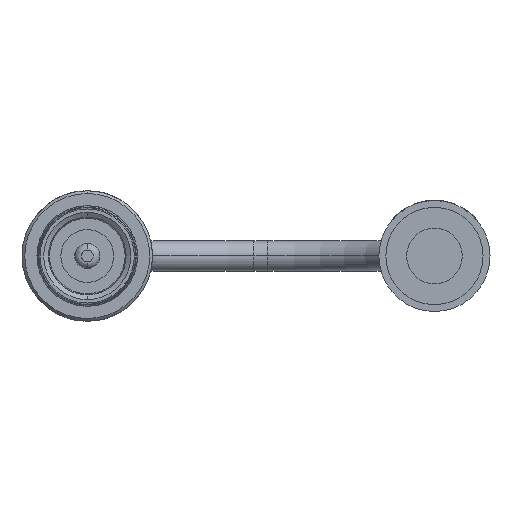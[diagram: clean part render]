
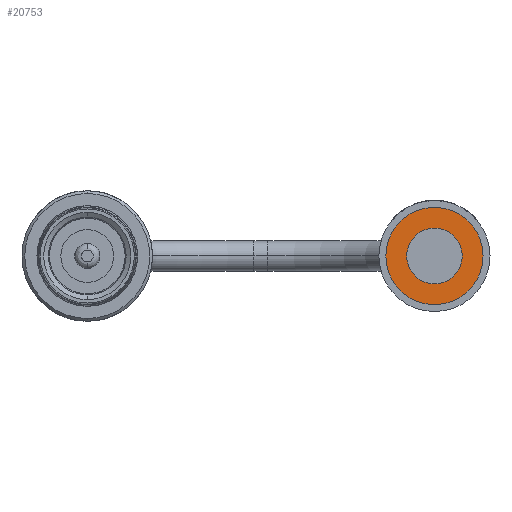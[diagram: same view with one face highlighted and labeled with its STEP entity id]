
A CAD part, front view. The second image highlights one B-rep face of the part: STEP entity #20753.
In plain terms, the highlighted planar face has unit normal (0, -1, 0).
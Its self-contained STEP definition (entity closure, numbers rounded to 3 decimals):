
#6233=CARTESIAN_POINT('',(0.,-19.986,0.));
#6234=DIRECTION('',(0.,-1.,0.));
#6235=DIRECTION('',(-1.,0.,0.));
#6236=AXIS2_PLACEMENT_3D('',#6233,#6234,#6235);
#6241=CARTESIAN_POINT('',(0.,-19.986,0.));
#6242=DIRECTION('',(0.,-1.,0.));
#6243=DIRECTION('',(1.,0.,0.));
#6244=AXIS2_PLACEMENT_3D('',#6241,#6242,#6243);
#6249=CARTESIAN_POINT('',(0.,-19.986,0.));
#6250=DIRECTION('',(0.,1.,0.));
#6251=DIRECTION('',(-1.,0.,0.));
#6252=AXIS2_PLACEMENT_3D('',#6249,#6250,#6251);
#6257=CARTESIAN_POINT('',(0.,-19.986,0.));
#6258=DIRECTION('',(0.,1.,0.));
#6259=DIRECTION('',(1.,0.,0.));
#6260=AXIS2_PLACEMENT_3D('',#6257,#6258,#6259);
#15466=CARTESIAN_POINT('',(-3.5,-19.986,0.));
#15467=CARTESIAN_POINT('',(3.5,-19.986,0.));
#15468=VERTEX_POINT('',#15466);
#15469=VERTEX_POINT('',#15467);
#15470=CARTESIAN_POINT('',(-2.,-19.986,0.));
#15471=CARTESIAN_POINT('',(2.,-19.986,0.));
#15472=VERTEX_POINT('',#15470);
#15473=VERTEX_POINT('',#15471);
#20738=CARTESIAN_POINT('',(0.,-19.986,0.));
#20739=DIRECTION('',(0.,-1.,0.));
#20740=DIRECTION('',(-1.,0.,0.));
#20741=AXIS2_PLACEMENT_3D('',#20738,#20739,#20740);
#20742=PLANE('',#20741);
#20743=ORIENTED_EDGE('',*,*,#20694,.F.);
#20744=ORIENTED_EDGE('',*,*,#20720,.F.);
#20745=EDGE_LOOP('',(#20743,#20744));
#20746=FACE_OUTER_BOUND('',#20745,.F.);
#20748=ORIENTED_EDGE('',*,*,#20747,.F.);
#20750=ORIENTED_EDGE('',*,*,#20749,.F.);
#20751=EDGE_LOOP('',(#20748,#20750));
#20752=FACE_BOUND('',#20751,.F.);
#20753=ADVANCED_FACE('',(#20746,#20752),#20742,.T.);
#6237=CIRCLE('',#6236,3.5);
#6245=CIRCLE('',#6244,3.5);
#6253=CIRCLE('',#6252,2.);
#6261=CIRCLE('',#6260,2.);
#20694=EDGE_CURVE('',#15468,#15469,#6237,.T.);
#20720=EDGE_CURVE('',#15469,#15468,#6245,.T.);
#20747=EDGE_CURVE('',#15472,#15473,#6253,.T.);
#20749=EDGE_CURVE('',#15473,#15472,#6261,.T.);
